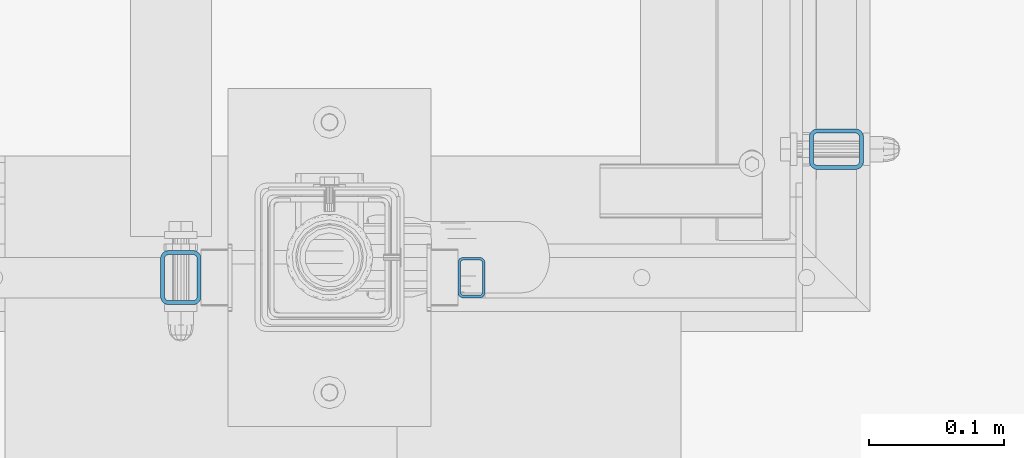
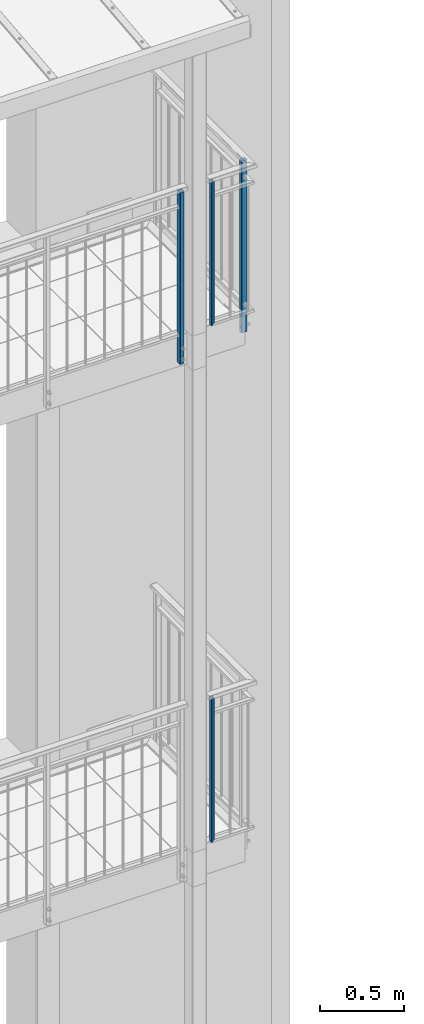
# One storey, part 7 of 162: 4 columns, 16 openings.
"""IFC2X3 building model written with IfcOpenShell, lengths in millimetres."""

from ifc_helpers import new_model, entity, si_unit, converted_unit, frame, frame_2d, origin, origin_with_axes, origin_2d, place, context, project, spatial, hollow_rectangle, circle, extrude, clip, halfspace, material, element, save


model = new_model("IFC2X3")

# Units and contexts
model_context = context("Model", 3, precision=1e-09, world=origin_with_axes())
ifc_project = project(units=[si_unit("LENGTHUNIT", "METRE", prefix="MILLI"), si_unit("AREAUNIT", "SQUARE_METRE"), si_unit("VOLUMEUNIT", "CUBIC_METRE"), converted_unit("PLANEANGLEUNIT", "DEGREE", entity("IfcPlaneAngleMeasure", 0.01745329), si_unit("PLANEANGLEUNIT", "RADIAN"), dimensions=[0, 0, 0, 0, 0, 0, 0])], contexts=[model_context])

# Site, building, storey
site_placement = place(None, origin_with_axes())
site = spatial("IfcSite", under=ifc_project, at=site_placement, Name="Hermannstra?e 1a, 60318 Frankfurt", CompositionType="ELEMENT")
building_placement = place(site_placement, origin_with_axes())
building = spatial("IfcBuilding", under=site, at=building_placement, Name="Struktur 1", CompositionType="ELEMENT")
storey_placement = place(building_placement, origin_with_axes())
storey = spatial("IfcBuildingStorey", under=building, at=storey_placement, Name="Default Storey", CompositionType="ELEMENT", Elevation=0.0)

# Column, opening
ifc_material = material(Name="S235JR")
column_1_placement = place(None, frame((5578.30936482, 1515.609373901, 12549.999), z_axis=(0.0, 0.0, -1.0), x_axis=(1.0, 0.0, 0.0)))
column_1 = element("IfcColumn", 1, at=column_1_placement, inside=storey, material=ifc_material, Name="-", ObjectType="-", context=model_context, shape_type="Clipping", body=[
    clip(extrude(hollow_rectangle(XDim=20.0, YDim=30.0, WallThickness=2.0, InnerFilletRadius=2.0, OuterFilletRadius=4.0, at=origin_2d()), origin(), (0.0, 0.0, 1.0), 1065.495097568), halfspace(frame((-8544.154889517, 1515.609373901, 9584.153475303), z_axis=(-0.707106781, 0.0, -0.707106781), x_axis=(0.0, 1.0, 0.0)), True)),
])
opening_1_placement = place(column_1_placement, frame((7.5, 0.0, 210.0), z_axis=(1.0, 0.0, 0.0), x_axis=(0.0, -1.0, 0.0)))
element("IfcOpeningElement", 2, at=opening_1_placement, cuts=column_1, ObjectType="Opening", context=model_context, shape_type="SweptSolid", body=[
    extrude(circle(Radius=5.001, at=frame_2d((0.0, 100.0), x_axis=(1.0, 0.0))), origin(), (0.0, 0.0, 1.0), 3.0),
])

# Column, openings
column_2_placement = place(None, frame((5848.30936482, 1610.609373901, 15056.999), z_axis=(0.0, 0.0, -1.0), x_axis=(0.0, -1.0, 0.0)))
column_2 = element("IfcColumn", 3, at=column_2_placement, inside=storey, material=ifc_material, Name="-", ObjectType="-", context=model_context, shape_type="SweptSolid", body=[
    extrude(hollow_rectangle(XDim=30.0, YDim=40.0, WallThickness=3.0, InnerFilletRadius=3.0, OuterFilletRadius=6.0, at=origin_2d()), origin(), (0.0, 0.0, -1.0), 1250.0),
])
opening_2_placement = place(column_2_placement, frame((-11.5, 0.0, -1040.0), z_axis=(-1.0, 0.0, 0.0), x_axis=(0.0, 1.0, 0.0)))
element("IfcOpeningElement", 4, at=opening_2_placement, cuts=column_2, ObjectType="Opening", context=model_context, shape_type="SweptSolid", body=[
    extrude(circle(Radius=5.001, at=frame_2d((0.0, 100.0), x_axis=(1.0, 0.0))), origin(), (0.0, 0.0, 1.0), 4.0),
])
opening_3_placement = place(column_2_placement, frame((-11.5, 0.0, -240.0), z_axis=(-1.0, 0.0, 0.0), x_axis=(0.0, 1.0, 0.0)))
element("IfcOpeningElement", 5, at=opening_3_placement, cuts=column_2, ObjectType="Opening", context=model_context, shape_type="SweptSolid", body=[
    extrude(circle(Radius=5.001, at=frame_2d((0.0, -30.0), x_axis=(1.0, 0.0))), origin(), (0.0, 0.0, 1.0), 4.0),
])
opening_4_placement = place(column_2_placement, frame((11.5, -5.001, -210.0), z_axis=(-1.0, 0.0, 0.0), x_axis=(0.0, -1.0, 0.0)))
element("IfcOpeningElement", 6, at=opening_4_placement, cuts=column_2, ObjectType="Opening", context=model_context, shape_type="SweptSolid", body=[
    extrude(circle(Radius=5.001, at=frame_2d((-5.001, 0.0), x_axis=(1.0, 0.0))), origin(), (0.0, 0.0, -1.0), 4.0),
])
opening_5_placement = place(column_2_placement, frame((11.5, -5.001, -1140.0), z_axis=(-1.0, 0.0, 0.0), x_axis=(0.0, -1.0, 0.0)))
element("IfcOpeningElement", 7, at=opening_5_placement, cuts=column_2, ObjectType="Opening", context=model_context, shape_type="SweptSolid", body=[
    extrude(circle(Radius=5.001, at=frame_2d((-5.001, 0.0), x_axis=(1.0, 0.0))), origin(), (0.0, 0.0, -1.0), 4.0),
])
opening_6_placement = place(column_2_placement, frame((8.001, 16.5, -120.0), z_axis=(0.0, -1.0, 0.0), x_axis=(1.0, 0.0, 0.0)))
element("IfcOpeningElement", 8, at=opening_6_placement, cuts=column_2, ObjectType="Opening", context=model_context, shape_type="SweptSolid", body=[
    extrude(circle(Radius=8.001, at=frame_2d((-8.001, 0.0), x_axis=(1.0, 0.0))), origin(), (0.0, 0.0, -1.0), 4.0),
])
opening_7_placement = place(column_2_placement, frame((8.001, 16.5, -40.0), z_axis=(0.0, -1.0, 0.0), x_axis=(1.0, 0.0, 0.0)))
element("IfcOpeningElement", 9, at=opening_7_placement, cuts=column_2, ObjectType="Opening", context=model_context, shape_type="SweptSolid", body=[
    extrude(circle(Radius=8.001, at=frame_2d((-8.001, 0.0), x_axis=(1.0, 0.0))), origin(), (0.0, 0.0, -1.0), 4.0),
])
opening_8_placement = place(column_2_placement, frame((8.001, -20.5, -120.0), z_axis=(0.0, -1.0, 0.0), x_axis=(1.0, 0.0, 0.0)))
element("IfcOpeningElement", 10, at=opening_8_placement, cuts=column_2, ObjectType="Opening", context=model_context, shape_type="SweptSolid", body=[
    extrude(circle(Radius=8.001, at=frame_2d((-8.001, 0.0), x_axis=(1.0, 0.0))), origin(), (0.0, 0.0, -1.0), 4.0),
])
opening_9_placement = place(column_2_placement, frame((8.001, -20.5, -40.0), z_axis=(0.0, -1.0, 0.0), x_axis=(1.0, 0.0, 0.0)))
element("IfcOpeningElement", 11, at=opening_9_placement, cuts=column_2, ObjectType="Opening", context=model_context, shape_type="SweptSolid", body=[
    extrude(circle(Radius=8.001, at=frame_2d((-8.001, 0.0), x_axis=(1.0, 0.0))), origin(), (0.0, 0.0, -1.0), 4.0),
])

column_3_placement = place(None, frame((5363.30936482, 1515.609373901, 15056.999), z_axis=(0.0, 0.0, -1.0), x_axis=(1.0, 0.0, 0.0)))
column_3 = element("IfcColumn", 12, at=column_3_placement, inside=storey, material=ifc_material, Name="-", ObjectType="-", context=model_context, shape_type="SweptSolid", body=[
    extrude(hollow_rectangle(XDim=30.0, YDim=40.0, WallThickness=3.0, InnerFilletRadius=3.0, OuterFilletRadius=6.0, at=origin_2d()), origin(), (0.0, 0.0, -1.0), 1250.0),
])
opening_10_placement = place(column_3_placement, frame((-11.5, 5.001, -210.0), z_axis=(1.0, 0.0, 0.0), x_axis=(0.0, 1.0, 0.0)))
element("IfcOpeningElement", 13, at=opening_10_placement, cuts=column_3, ObjectType="Opening", context=model_context, shape_type="SweptSolid", body=[
    extrude(circle(Radius=5.001, at=frame_2d((-5.001, 0.0), x_axis=(1.0, 0.0))), origin(), (0.0, 0.0, -1.0), 4.0),
])
opening_11_placement = place(column_3_placement, frame((-11.5, 5.001, -1140.0), z_axis=(1.0, 0.0, 0.0), x_axis=(0.0, 1.0, 0.0)))
element("IfcOpeningElement", 14, at=opening_11_placement, cuts=column_3, ObjectType="Opening", context=model_context, shape_type="SweptSolid", body=[
    extrude(circle(Radius=5.001, at=frame_2d((-5.001, 0.0), x_axis=(1.0, 0.0))), origin(), (0.0, 0.0, -1.0), 4.0),
])
opening_12_placement = place(column_3_placement, frame((-8.001, -16.5, -120.0), z_axis=(0.0, 1.0, 0.0), x_axis=(-1.0, 0.0, 0.0)))
element("IfcOpeningElement", 15, at=opening_12_placement, cuts=column_3, ObjectType="Opening", context=model_context, shape_type="SweptSolid", body=[
    extrude(circle(Radius=8.001, at=frame_2d((-8.001, 0.0), x_axis=(1.0, 0.0))), origin(), (0.0, 0.0, -1.0), 4.0),
])
opening_13_placement = place(column_3_placement, frame((-8.001, -16.5, -40.0), z_axis=(0.0, 1.0, 0.0), x_axis=(-1.0, 0.0, 0.0)))
element("IfcOpeningElement", 16, at=opening_13_placement, cuts=column_3, ObjectType="Opening", context=model_context, shape_type="SweptSolid", body=[
    extrude(circle(Radius=8.001, at=frame_2d((-8.001, 0.0), x_axis=(1.0, 0.0))), origin(), (0.0, 0.0, -1.0), 4.0),
])
opening_14_placement = place(column_3_placement, frame((-8.001, 20.5, -120.0), z_axis=(0.0, 1.0, 0.0), x_axis=(-1.0, 0.0, 0.0)))
element("IfcOpeningElement", 17, at=opening_14_placement, cuts=column_3, ObjectType="Opening", context=model_context, shape_type="SweptSolid", body=[
    extrude(circle(Radius=8.001, at=frame_2d((-8.001, 0.0), x_axis=(1.0, 0.0))), origin(), (0.0, 0.0, -1.0), 4.0),
])
opening_15_placement = place(column_3_placement, frame((-8.001, 20.5, -40.0), z_axis=(0.0, 1.0, 0.0), x_axis=(-1.0, 0.0, 0.0)))
element("IfcOpeningElement", 18, at=opening_15_placement, cuts=column_3, ObjectType="Opening", context=model_context, shape_type="SweptSolid", body=[
    extrude(circle(Radius=8.001, at=frame_2d((-8.001, 0.0), x_axis=(1.0, 0.0))), origin(), (0.0, 0.0, -1.0), 4.0),
])

# Column, opening
column_4_placement = place(None, frame((5578.30936482, 1515.609373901, 16306.999), z_axis=(0.0, 0.0, -1.0), x_axis=(1.0, 0.0, 0.0)))
column_4 = element("IfcColumn", 19, at=column_4_placement, inside=storey, material=ifc_material, Name="-", ObjectType="-", context=model_context, shape_type="Clipping", body=[
    clip(extrude(hollow_rectangle(XDim=20.0, YDim=30.0, WallThickness=2.0, InnerFilletRadius=2.0, OuterFilletRadius=4.0, at=origin_2d()), origin(), (0.0, 0.0, 1.0), 1065.495097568), halfspace(frame((-10422.654889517, 1515.609373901, 11462.653475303), z_axis=(-0.707106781, 0.0, -0.707106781), x_axis=(0.0, 1.0, 0.0)), True)),
])
opening_16_placement = place(column_4_placement, frame((7.5, 0.0, 210.0), z_axis=(1.0, 0.0, 0.0), x_axis=(0.0, -1.0, 0.0)))
element("IfcOpeningElement", 20, at=opening_16_placement, cuts=column_4, ObjectType="Opening", context=model_context, shape_type="SweptSolid", body=[
    extrude(circle(Radius=5.001, at=frame_2d((0.0, 100.0), x_axis=(1.0, 0.0))), origin(), (0.0, 0.0, 1.0), 3.0),
])

save(model, "model.ifc")
